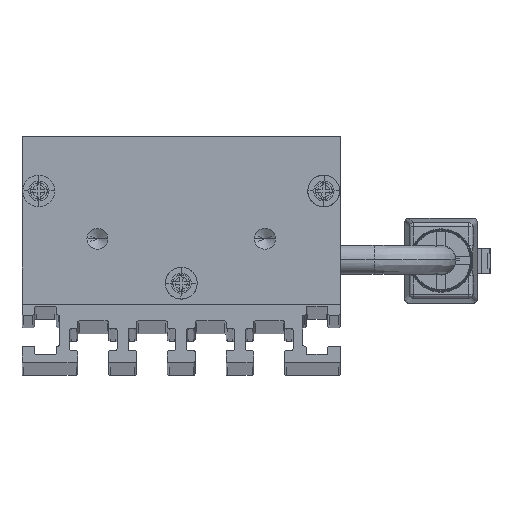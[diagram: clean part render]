
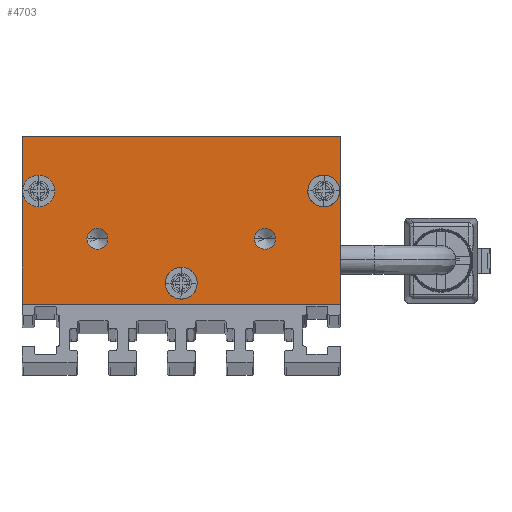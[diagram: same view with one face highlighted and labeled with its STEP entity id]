
A CAD part, top view. The second image highlights one B-rep face of the part: STEP entity #4703.
In plain terms, the highlighted planar face has unit normal (0, 0, 1) as drawn and (0, 0, -1) by its records, which use the part's own axes.
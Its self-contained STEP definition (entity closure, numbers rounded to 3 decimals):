
#154 = DIRECTION ( 'NONE',  ( 0., 0., 1. ) ) ;
#306 = DIRECTION ( 'NONE',  ( 1., 0., 0. ) ) ;
#343 = DIRECTION ( 'NONE',  ( -1., 0., 0. ) ) ;
#445 = CARTESIAN_POINT ( 'NONE',  ( -1.9, 2.5, -2.5 ) ) ;
#482 = FACE_BOUND ( 'NONE', #12400, .T. ) ;
#558 = DIRECTION ( 'NONE',  ( -1., 0., 0. ) ) ;
#744 = CIRCLE ( 'NONE', #13471, 1.25 ) ;
#752 = DIRECTION ( 'NONE',  ( -1., 0., 0. ) ) ;
#804 = DIRECTION ( 'NONE',  ( 0., 0., -1. ) ) ;
#848 = EDGE_LOOP ( 'NONE', ( #11950, #12348 ) ) ;
#852 = EDGE_CURVE ( 'NONE', #1941, #12948, #10231, .T. ) ;
#854 = AXIS2_PLACEMENT_3D ( 'NONE', #11949, #12119, #752 ) ;
#882 = DIRECTION ( 'NONE',  ( 0., 0., -1. ) ) ;
#1082 = CARTESIAN_POINT ( 'NONE',  ( 0., 2.5, -2.5 ) ) ;
#1129 = DIRECTION ( 'NONE',  ( 0., -1., 0. ) ) ;
#1280 = ORIENTED_EDGE ( 'NONE', *, *, #8258, .F. ) ;
#1335 = VERTEX_POINT ( 'NONE', #8429 ) ;
#1555 = FACE_BOUND ( 'NONE', #12310, .T. ) ;
#1631 = AXIS2_PLACEMENT_3D ( 'NONE', #1082, #13718, #16364 ) ;
#1669 = CIRCLE ( 'NONE', #1631, 1.9 ) ;
#1732 = ORIENTED_EDGE ( 'NONE', *, *, #10382, .F. ) ;
#1941 = VERTEX_POINT ( 'NONE', #9864 ) ;
#2019 = CARTESIAN_POINT ( 'NONE',  ( -17., 13.5, -2.5 ) ) ;
#2051 = LINE ( 'NONE', #12246, #16047 ) ;
#2098 = EDGE_CURVE ( 'NONE', #14183, #9633, #14877, .T. ) ;
#2179 = DIRECTION ( 'NONE',  ( 0., 0., -1. ) ) ;
#2439 = CIRCLE ( 'NONE', #854, 1.25 ) ;
#2519 = ORIENTED_EDGE ( 'NONE', *, *, #9345, .F. ) ;
#2541 = AXIS2_PLACEMENT_3D ( 'NONE', #2019, #2179, #3588 ) ;
#2834 = LINE ( 'NONE', #14206, #6304 ) ;
#2923 = DIRECTION ( 'NONE',  ( 0., 0., -1. ) ) ;
#2933 = ORIENTED_EDGE ( 'NONE', *, *, #13475, .F. ) ;
#3213 = CARTESIAN_POINT ( 'NONE',  ( 17., 13.5, -2.5 ) ) ;
#3304 = DIRECTION ( 'NONE',  ( 0., 1., 0. ) ) ;
#3521 = ORIENTED_EDGE ( 'NONE', *, *, #12354, .F. ) ;
#3588 = DIRECTION ( 'NONE',  ( -1., 0., 0. ) ) ;
#3684 = VERTEX_POINT ( 'NONE', #10764 ) ;
#3895 = EDGE_CURVE ( 'NONE', #11084, #3684, #6437, .T. ) ;
#3918 = CARTESIAN_POINT ( 'NONE',  ( -19., 0., -2.5 ) ) ;
#4037 = VERTEX_POINT ( 'NONE', #7330 ) ;
#4176 = CARTESIAN_POINT ( 'NONE',  ( 10., 7.8, -2.5 ) ) ;
#4330 = DIRECTION ( 'NONE',  ( -1., 0., 0. ) ) ;
#4437 = ORIENTED_EDGE ( 'NONE', *, *, #852, .F. ) ;
#4703 = ADVANCED_FACE ( 'NONE', ( #482, #13089, #1555, #6632, #6558, #11605 ), #11677, .F. ) ;
#5183 = VERTEX_POINT ( 'NONE', #11618 ) ;
#5279 = DIRECTION ( 'NONE',  ( -1., 0., 0. ) ) ;
#5324 = AXIS2_PLACEMENT_3D ( 'NONE', #15428, #154, #306 ) ;
#5376 = VECTOR ( 'NONE', #1129, 1000. ) ;
#5809 = LINE ( 'NONE', #6062, #9767 ) ;
#6062 = CARTESIAN_POINT ( 'NONE',  ( 19., 20., -2.5 ) ) ;
#6304 = VECTOR ( 'NONE', #6656, 1000. ) ;
#6437 = CIRCLE ( 'NONE', #11733, 1.25 ) ;
#6520 = ORIENTED_EDGE ( 'NONE', *, *, #15557, .F. ) ;
#6528 = EDGE_CURVE ( 'NONE', #3684, #11084, #12571, .T. ) ;
#6558 = FACE_BOUND ( 'NONE', #15163, .T. ) ;
#6615 = CARTESIAN_POINT ( 'NONE',  ( 1.9, 2.5, -2.5 ) ) ;
#6632 = FACE_BOUND ( 'NONE', #848, .T. ) ;
#6656 = DIRECTION ( 'NONE',  ( -1., 0., 0. ) ) ;
#6690 = CARTESIAN_POINT ( 'NONE',  ( 0., 2.5, -2.5 ) ) ;
#6863 = CARTESIAN_POINT ( 'NONE',  ( -17., 13.5, -2.5 ) ) ;
#7017 = EDGE_CURVE ( 'NONE', #13645, #13591, #2051, .T. ) ;
#7022 = AXIS2_PLACEMENT_3D ( 'NONE', #3213, #882, #12252 ) ;
#7052 = CARTESIAN_POINT ( 'NONE',  ( 17., 13.5, -2.5 ) ) ;
#7208 = ORIENTED_EDGE ( 'NONE', *, *, #15439, .F. ) ;
#7256 = ORIENTED_EDGE ( 'NONE', *, *, #2098, .F. ) ;
#7330 = CARTESIAN_POINT ( 'NONE',  ( 19., 20., -2.5 ) ) ;
#7447 = CARTESIAN_POINT ( 'NONE',  ( -19., 20., -2.5 ) ) ;
#7456 = AXIS2_PLACEMENT_3D ( 'NONE', #7052, #804, #558 ) ;
#7625 = LINE ( 'NONE', #7447, #5376 ) ;
#7782 = DIRECTION ( 'NONE',  ( -1., 0., 0. ) ) ;
#7847 = ORIENTED_EDGE ( 'NONE', *, *, #12005, .F. ) ;
#7974 = DIRECTION ( 'NONE',  ( -1., 0., 0. ) ) ;
#8152 = ORIENTED_EDGE ( 'NONE', *, *, #10246, .F. ) ;
#8258 = EDGE_CURVE ( 'NONE', #1335, #13645, #7625, .T. ) ;
#8267 = VERTEX_POINT ( 'NONE', #16239 ) ;
#8429 = CARTESIAN_POINT ( 'NONE',  ( -19., 20., -2.5 ) ) ;
#9030 = CARTESIAN_POINT ( 'NONE',  ( -18.9, 13.5, -2.5 ) ) ;
#9217 = DIRECTION ( 'NONE',  ( 0., 0., -1. ) ) ;
#9345 = EDGE_CURVE ( 'NONE', #8267, #5183, #2439, .T. ) ;
#9597 = DIRECTION ( 'NONE',  ( 1., 0., 0. ) ) ;
#9633 = VERTEX_POINT ( 'NONE', #11608 ) ;
#9767 = VECTOR ( 'NONE', #3304, 1000. ) ;
#9864 = CARTESIAN_POINT ( 'NONE',  ( -15.1, 13.5, -2.5 ) ) ;
#9957 = VERTEX_POINT ( 'NONE', #445 ) ;
#10231 = CIRCLE ( 'NONE', #15552, 1.9 ) ;
#10246 = EDGE_CURVE ( 'NONE', #12273, #9957, #1669, .T. ) ;
#10382 = EDGE_CURVE ( 'NONE', #4037, #1335, #2834, .T. ) ;
#10455 = AXIS2_PLACEMENT_3D ( 'NONE', #12968, #14046, #343 ) ;
#10764 = CARTESIAN_POINT ( 'NONE',  ( 11.25, 7.8, -2.5 ) ) ;
#10851 = CARTESIAN_POINT ( 'NONE',  ( 8.75, 7.8, -2.5 ) ) ;
#11084 = VERTEX_POINT ( 'NONE', #10851 ) ;
#11219 = CARTESIAN_POINT ( 'NONE',  ( 19., 0., -2.5 ) ) ;
#11605 = FACE_OUTER_BOUND ( 'NONE', #13752, .T. ) ;
#11608 = CARTESIAN_POINT ( 'NONE',  ( 15.1, 13.5, -2.5 ) ) ;
#11618 = CARTESIAN_POINT ( 'NONE',  ( -11.25, 7.8, -2.5 ) ) ;
#11656 = DIRECTION ( 'NONE',  ( 0., 0., -1. ) ) ;
#11677 = PLANE ( 'NONE',  #5324 ) ;
#11733 = AXIS2_PLACEMENT_3D ( 'NONE', #4176, #2923, #4330 ) ;
#11949 = CARTESIAN_POINT ( 'NONE',  ( -10., 7.8, -2.5 ) ) ;
#11950 = ORIENTED_EDGE ( 'NONE', *, *, #3895, .F. ) ;
#12005 = EDGE_CURVE ( 'NONE', #9633, #14183, #14685, .T. ) ;
#12119 = DIRECTION ( 'NONE',  ( 0., 0., -1. ) ) ;
#12246 = CARTESIAN_POINT ( 'NONE',  ( -19., 0., -2.5 ) ) ;
#12252 = DIRECTION ( 'NONE',  ( -1., 0., 0. ) ) ;
#12273 = VERTEX_POINT ( 'NONE', #6615 ) ;
#12310 = EDGE_LOOP ( 'NONE', ( #2933, #4437 ) ) ;
#12348 = ORIENTED_EDGE ( 'NONE', *, *, #6528, .F. ) ;
#12354 = EDGE_CURVE ( 'NONE', #9957, #12273, #14701, .T. ) ;
#12400 = EDGE_LOOP ( 'NONE', ( #7847, #7256 ) ) ;
#12571 = CIRCLE ( 'NONE', #10455, 1.25 ) ;
#12611 = CIRCLE ( 'NONE', #2541, 1.9 ) ;
#12948 = VERTEX_POINT ( 'NONE', #9030 ) ;
#12968 = CARTESIAN_POINT ( 'NONE',  ( 10., 7.8, -2.5 ) ) ;
#13089 = FACE_BOUND ( 'NONE', #15803, .T. ) ;
#13471 = AXIS2_PLACEMENT_3D ( 'NONE', #15521, #9217, #7974 ) ;
#13475 = EDGE_CURVE ( 'NONE', #12948, #1941, #12611, .T. ) ;
#13591 = VERTEX_POINT ( 'NONE', #11219 ) ;
#13645 = VERTEX_POINT ( 'NONE', #3918 ) ;
#13718 = DIRECTION ( 'NONE',  ( 0., 0., -1. ) ) ;
#13752 = EDGE_LOOP ( 'NONE', ( #1280, #1732, #6520, #14269 ) ) ;
#14046 = DIRECTION ( 'NONE',  ( 0., 0., -1. ) ) ;
#14072 = DIRECTION ( 'NONE',  ( 0., 0., -1. ) ) ;
#14098 = CARTESIAN_POINT ( 'NONE',  ( 18.9, 13.5, -2.5 ) ) ;
#14183 = VERTEX_POINT ( 'NONE', #14098 ) ;
#14206 = CARTESIAN_POINT ( 'NONE',  ( -19., 20., -2.5 ) ) ;
#14269 = ORIENTED_EDGE ( 'NONE', *, *, #7017, .F. ) ;
#14685 = CIRCLE ( 'NONE', #7022, 1.9 ) ;
#14701 = CIRCLE ( 'NONE', #15236, 1.9 ) ;
#14877 = CIRCLE ( 'NONE', #7456, 1.9 ) ;
#15163 = EDGE_LOOP ( 'NONE', ( #7208, #2519 ) ) ;
#15236 = AXIS2_PLACEMENT_3D ( 'NONE', #6690, #14072, #7782 ) ;
#15428 = CARTESIAN_POINT ( 'NONE',  ( 0., 0., -2.5 ) ) ;
#15439 = EDGE_CURVE ( 'NONE', #5183, #8267, #744, .T. ) ;
#15521 = CARTESIAN_POINT ( 'NONE',  ( -10., 7.8, -2.5 ) ) ;
#15552 = AXIS2_PLACEMENT_3D ( 'NONE', #6863, #11656, #5279 ) ;
#15557 = EDGE_CURVE ( 'NONE', #13591, #4037, #5809, .T. ) ;
#15803 = EDGE_LOOP ( 'NONE', ( #3521, #8152 ) ) ;
#16047 = VECTOR ( 'NONE', #9597, 1000. ) ;
#16239 = CARTESIAN_POINT ( 'NONE',  ( -8.75, 7.8, -2.5 ) ) ;
#16364 = DIRECTION ( 'NONE',  ( -1., 0., 0. ) ) ;
